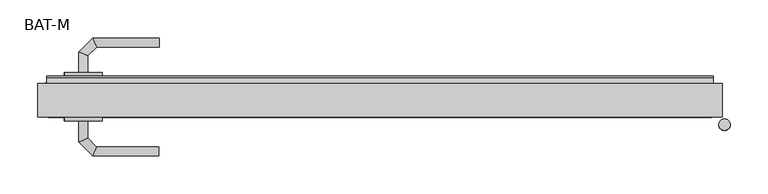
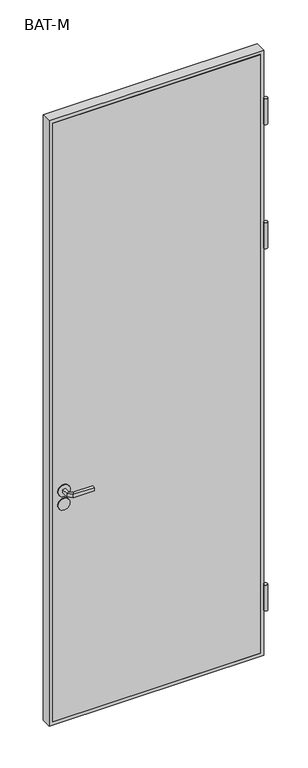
"""IFC4 building model written with IfcOpenShell, lengths in millimetres: proxy geometry, BAT-M : 94-GODVF54."""

from ifc_helpers import new_model, si_unit, point, frame, frame_2d, origin, place, context, project, spatial, polyline, circle_curve, ellipse_curve, trimmed, segment, composite_curve, outline, extrude, source, transform, mapped, element, save
from ifc_brep_helpers import plane_surface, cylinder_surface, advanced_brep


def bat_m_937d9498(model_context):
    return source(origin(), model_context, "Body", "SolidModel", [
        extrude(outline(composite_curve([segment(polyline([(1126.0, -831.5306002), (1126.0, -896.5306002), (916.0, -896.5306002), (916.0, -831.5306002)]), True, "CONTINUOUS"), segment(trimmed(circle_curve(frame_2d((956.0, -831.5306002)), 40.0), [point((916.0, -831.5306002))], [point((956.0, -791.5306002))], False, "CARTESIAN"), True, "CONTINUOUS"), segment(polyline([(956.0, -791.5306002), (1086.0, -791.5306002)]), True, "CONTINUOUS"), segment(trimmed(circle_curve(frame_2d((1086.0, -831.5306002)), 40.0), [point((1086.0, -791.5306002))], [point((1126.0, -831.5306002))], False, "CARTESIAN"), True, "CONTINUOUS")], self_intersect=False)), frame((0.0, 7.9132708, 0.0), z_axis=(0.0, 1.0, 0.0), x_axis=(0.0, 0.0, 1.0)), (0.0, 0.0, 1.0), 37.9267377),
        extrude(outline(composite_curve([segment(trimmed(circle_curve(frame_2d((1051.0, -846.7739009)), 25.0), [point((1051.0, -871.7739009))], [point((1051.0, -821.7739009))], False, "CARTESIAN"), True, "CONTINUOUS"), segment(trimmed(circle_curve(frame_2d((1051.0, -846.7739009)), 25.0), [point((1051.0, -821.7739009))], [point((1051.0, -871.7739009))], False, "CARTESIAN"), True, "CONTINUOUS")], self_intersect=False)), frame((0.0, 54.0, 0.0), z_axis=(0.0, 1.0, 0.0), x_axis=(0.0, 0.0, 1.0)), (0.0, 0.0, 1.0), 5.0),
        extrude(outline(composite_curve([segment(trimmed(circle_curve(frame_2d((991.25, -846.9257392)), 25.0), [point((991.25, -871.9257392))], [point((991.25, -821.9257392))], False, "CARTESIAN"), True, "CONTINUOUS"), segment(trimmed(circle_curve(frame_2d((991.25, -846.9257392)), 25.0), [point((991.25, -821.9257392))], [point((991.25, -871.9257392))], False, "CARTESIAN"), True, "CONTINUOUS")], self_intersect=False)), frame((0.0, 54.0, 0.0), z_axis=(0.0, 1.0, 0.0), x_axis=(0.0, 0.0, 1.0)), (0.0, 0.0, 1.0), 5.0),
        advanced_brep(
        [(-841.0, 59.0, 1044.0), (-841.0, 59.0, 1058.0), (-853.0, 59.0, 1058.0), (-853.0, 59.0, 1044.0), (-841.0, 81.4852045, 1044.0), (-841.0, 81.4852045, 1058.0), (-853.0, 86.4557673, 1058.0), (-853.0, 86.4557673, 1044.0), (-829.5147186, 92.9704859, 1044.0), (-829.5147186, 92.9704859, 1058.0), (-834.4852814, 104.9704859, 1058.0), (-834.4852814, 104.9704859, 1044.0), (-746.9542163, 92.9704859, 1044.0), (-746.9542163, 104.9704859, 1044.0), (-746.9542163, 104.9704859, 1058.0), (-746.9542163, 92.9704859, 1058.0)],
        [
            (0, 1),
            (1, 2, circle_curve(frame((-847.0, 59.0, 1037.9542278), z_axis=(0.0, -1.0, 0.0), x_axis=(-1.0, 0.0, 0.0)), 20.9244589)),
            (2, 3),
            (3, 0, circle_curve(frame((-847.0, 59.0, 1064.0457722), z_axis=(0.0, -1.0, 0.0), x_axis=(-1.0, 0.0, 0.0)), 20.9244589)),
            (0, 4),
            (4, 5),
            (5, 1),
            (5, 6, ellipse_curve(frame((-847.0, 83.9704859, 1037.9542278), z_axis=(-0.3826834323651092, -0.9238795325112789, 0.0), x_axis=(0.9238795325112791, -0.3826834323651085, 0.0)), 22.6484711, 20.9244589)),
            (6, 2),
            (6, 7),
            (7, 3),
            (7, 4, ellipse_curve(frame((-847.0, 83.9704859, 1064.0457722), z_axis=(-0.3826834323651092, -0.9238795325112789, 0.0), x_axis=(0.9238795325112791, -0.3826834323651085, 0.0)), 22.6484711, 20.9244589)),
            (4, 8),
            (8, 9),
            (9, 5),
            (9, 10, ellipse_curve(frame((-832.0, 98.9704859, 1037.9542278), z_axis=(-0.923879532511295, -0.38268343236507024, 0.0), x_axis=(0.3826834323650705, -0.9238795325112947, 0.0)), 22.6484711, 20.9244589)),
            (10, 6),
            (10, 11),
            (11, 7),
            (11, 8, ellipse_curve(frame((-832.0, 98.9704859, 1064.0457722), z_axis=(-0.923879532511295, -0.38268343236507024, 0.0), x_axis=(0.3826834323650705, -0.9238795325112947, 0.0)), 22.6484711, 20.9244589)),
            (12, 13, circle_curve(frame((-746.9542163, 98.9704859, 1064.0457722), z_axis=(1.0, 0.0, 0.0), x_axis=(0.0, 1.0, 0.0)), 20.9244589)),
            (13, 14),
            (14, 15, circle_curve(frame((-746.9542163, 98.9704859, 1037.9542278), z_axis=(1.0, 0.0, 0.0), x_axis=(0.0, 1.0, 0.0)), 20.9244589)),
            (15, 12),
            (8, 12),
            (15, 9),
            (14, 10),
            (13, 11),
        ],
        [
            plane_surface(frame((-856.2195445, 59.0, 1051.0), z_axis=(0.0, -1.0, 0.0), x_axis=(0.0, 0.0, 1.0))),
            plane_surface(frame((-841.0, 59.0, 1044.0), z_axis=(1.0, 0.0, 0.0), x_axis=(0.0, 1.0, 0.0))),
            cylinder_surface(frame((-847.0, 59.0, 1037.9542278), z_axis=(0.0, -1.0, 0.0), x_axis=(-1.0, 0.0, 0.0)), 20.9244589),
            plane_surface(frame((-853.0, 59.0, 1058.0), z_axis=(-1.0, 0.0, 0.0), x_axis=(0.0, 1.0, 0.0))),
            cylinder_surface(frame((-847.0, 59.0, 1064.0457722), z_axis=(0.0, -1.0, 0.0), x_axis=(-1.0, 0.0, 0.0)), 20.9244589),
            plane_surface(frame((-841.0, 81.4852045, 1044.0), z_axis=(0.7071067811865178, -0.7071067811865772, 0.0), x_axis=(0.7071067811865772, 0.7071067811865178, 0.0))),
            cylinder_surface(frame((-847.0, 83.9704859, 1037.9542278), z_axis=(-0.7071067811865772, -0.7071067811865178, 0.0), x_axis=(-0.7071067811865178, 0.7071067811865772, 0.0)), 20.9244589),
            plane_surface(frame((-853.0, 86.4557673, 1058.0), z_axis=(-0.7071067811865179, 0.7071067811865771, 0.0), x_axis=(0.7071067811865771, 0.7071067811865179, 0.0))),
            cylinder_surface(frame((-847.0, 83.9704859, 1064.0457722), z_axis=(-0.7071067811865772, -0.7071067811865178, 0.0), x_axis=(-0.7071067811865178, 0.7071067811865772, 0.0)), 20.9244589),
            plane_surface(frame((-746.9542163, 98.9704859, 1041.7804555), z_axis=(1.0, 0.0, 0.0), x_axis=(0.0, 1.0, 0.0))),
            plane_surface(frame((-829.5147186, 92.9704859, 1044.0), z_axis=(0.0, -1.0, 0.0), x_axis=(1.0, 0.0, 0.0))),
            cylinder_surface(frame((-832.0, 98.9704859, 1037.9542278), z_axis=(-1.0, 0.0, 0.0), x_axis=(0.0, 1.0, 0.0)), 20.9244589),
            plane_surface(frame((-834.4852814, 104.9704859, 1058.0), z_axis=(0.0, 1.0, 0.0), x_axis=(1.0, 0.0, 0.0))),
            cylinder_surface(frame((-832.0, 98.9704859, 1064.0457722), z_axis=(-1.0, 0.0, 0.0), x_axis=(0.0, 1.0, 0.0)), 20.9244589),
        ],
        [
            (0, [[1, 2, 3, 4]]),
            (1, [[-1, 5, 6, 7]]),
            (2, [[-2, -7, 8, 9]]),
            (3, [[-3, -9, 10, 11]]),
            (4, [[-4, -11, 12, -5]]),
            (5, [[-6, 13, 14, 15]]),
            (6, [[-8, -15, 16, 17]]),
            (7, [[-10, -17, 18, 19]]),
            (8, [[-12, -19, 20, -13]]),
            (9, [[21, 22, 23, 24]]),
            (10, [[-14, 25, -24, 26]]),
            (11, [[-16, -26, -23, 27]]),
            (12, [[-18, -27, -22, 28]]),
            (13, [[-20, -28, -21, -25]]),
        ],
    ),
        advanced_brep(
        [(-853.0, -5.0, 1058.0), (-841.0, -5.0, 1058.0), (-841.0, -5.0, 1044.0), (-853.0, -5.0, 1044.0), (-853.0, -32.6509507, 1058.0), (-841.0, -27.680388, 1058.0), (-841.0, -27.680388, 1044.0), (-853.0, -32.6509507, 1044.0), (-834.62279, -51.0281607, 1058.0), (-829.6522273, -39.0281607, 1058.0), (-829.6522273, -39.0281607, 1044.0), (-834.62279, -51.0281607, 1044.0), (-746.9813594, -51.0281607, 1058.0), (-746.9813594, -51.0281607, 1044.0), (-746.9813594, -39.0281607, 1044.0), (-746.9813594, -39.0281607, 1058.0)],
        [
            (0, 1, circle_curve(frame((-847.0, -5.0, 1037.9542278), z_axis=(0.0, 1.0, 0.0), x_axis=(1.0, 0.0, 0.0)), 20.9244589)),
            (1, 2),
            (2, 3, circle_curve(frame((-847.0, -5.0, 1064.0457722), z_axis=(0.0, 1.0, 0.0), x_axis=(1.0, 0.0, 0.0)), 20.9244589)),
            (3, 0),
            (0, 4),
            (4, 5, ellipse_curve(frame((-847.0, -30.1656693, 1037.9542278), z_axis=(-0.38268343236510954, 0.9238795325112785, 0.0), x_axis=(0.9238795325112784, 0.38268343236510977, 0.0)), 22.6484711, 20.9244589)),
            (5, 1),
            (5, 6),
            (6, 2),
            (6, 7, ellipse_curve(frame((-847.0, -30.1656693, 1064.0457722), z_axis=(-0.38268343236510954, 0.9238795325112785, 0.0), x_axis=(0.9238795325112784, 0.38268343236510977, 0.0)), 22.6484711, 20.9244589)),
            (7, 3),
            (7, 4),
            (4, 8),
            (8, 9, ellipse_curve(frame((-832.1375086, -45.0281607, 1037.9542278), z_axis=(-0.9238795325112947, 0.38268343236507, 0.0), x_axis=(0.38268343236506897, 0.9238795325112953, 0.0)), 22.6484711, 20.9244589)),
            (9, 5),
            (9, 10),
            (10, 6),
            (10, 11, ellipse_curve(frame((-832.1375086, -45.0281607, 1064.0457722), z_axis=(-0.9238795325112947, 0.38268343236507, 0.0), x_axis=(0.38268343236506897, 0.9238795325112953, 0.0)), 22.6484711, 20.9244589)),
            (11, 7),
            (11, 8),
            (12, 13),
            (13, 14, circle_curve(frame((-746.9813594, -45.0281607, 1064.0457722), z_axis=(1.0, 0.0, 0.0), x_axis=(0.0, 1.0, 0.0)), 20.9244589)),
            (14, 15),
            (15, 12, circle_curve(frame((-746.9813594, -45.0281607, 1037.9542278), z_axis=(1.0, 0.0, 0.0), x_axis=(0.0, 1.0, 0.0)), 20.9244589)),
            (8, 12),
            (15, 9),
            (14, 10),
            (13, 11),
        ],
        [
            plane_surface(frame((-856.2195445, -5.0, 1051.0), z_axis=(0.0, 1.0, 0.0), x_axis=(0.0, 0.0, -1.0))),
            cylinder_surface(frame((-847.0, -5.0, 1037.9542278), z_axis=(0.0, 1.0, 0.0), x_axis=(1.0, 0.0, 0.0)), 20.9244589),
            plane_surface(frame((-841.0, -5.0, 1058.0), z_axis=(1.0, 0.0, 0.0), x_axis=(0.0, -1.0, 0.0))),
            cylinder_surface(frame((-847.0, -5.0, 1064.0457722), z_axis=(0.0, 1.0, 0.0), x_axis=(1.0, 0.0, 0.0)), 20.9244589),
            plane_surface(frame((-853.0, -5.0, 1044.0), z_axis=(-1.0, 0.0, 0.0), x_axis=(0.0, -1.0, 0.0))),
            cylinder_surface(frame((-847.0, -30.1656693, 1037.9542278), z_axis=(-0.7071067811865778, 0.7071067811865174, 0.0), x_axis=(0.7071067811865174, 0.7071067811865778, 0.0)), 20.9244589),
            plane_surface(frame((-841.0, -27.680388, 1058.0), z_axis=(0.707106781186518, 0.7071067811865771, 0.0), x_axis=(0.7071067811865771, -0.707106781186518, 0.0))),
            cylinder_surface(frame((-847.0, -30.1656693, 1064.0457722), z_axis=(-0.7071067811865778, 0.7071067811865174, 0.0), x_axis=(0.7071067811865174, 0.7071067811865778, 0.0)), 20.9244589),
            plane_surface(frame((-853.0, -32.6509507, 1044.0), z_axis=(-0.7071067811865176, -0.7071067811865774, 0.0), x_axis=(0.7071067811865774, -0.7071067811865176, 0.0))),
            plane_surface(frame((-746.9813594, -45.0281607, 1041.7804555), z_axis=(1.0, 0.0, 0.0), x_axis=(0.0, 1.0, 0.0))),
            cylinder_surface(frame((-832.1375086, -45.0281607, 1037.9542278), z_axis=(-1.0, 0.0, 0.0), x_axis=(0.0, 1.0, 0.0)), 20.9244589),
            plane_surface(frame((-829.6522273, -39.0281607, 1058.0), z_axis=(0.0, 1.0, 0.0), x_axis=(1.0, 0.0, 0.0))),
            cylinder_surface(frame((-832.1375086, -45.0281607, 1064.0457722), z_axis=(-1.0, 0.0, 0.0), x_axis=(0.0, 1.0, 0.0)), 20.9244589),
            plane_surface(frame((-834.62279, -51.0281607, 1044.0), z_axis=(0.0, -1.0, 0.0), x_axis=(1.0, 0.0, 0.0))),
        ],
        [
            (0, [[1, 2, 3, 4]]),
            (1, [[-1, 5, 6, 7]]),
            (2, [[-2, -7, 8, 9]]),
            (3, [[-3, -9, 10, 11]]),
            (4, [[-4, -11, 12, -5]]),
            (5, [[-6, 13, 14, 15]]),
            (6, [[-8, -15, 16, 17]]),
            (7, [[-10, -17, 18, 19]]),
            (8, [[-12, -19, 20, -13]]),
            (9, [[21, 22, 23, 24]]),
            (10, [[-14, 25, -24, 26]]),
            (11, [[-16, -26, -23, 27]]),
            (12, [[-18, -27, -22, 28]]),
            (13, [[-20, -28, -21, -25]]),
        ],
    ),
        extrude(outline(composite_curve([segment(trimmed(circle_curve(frame_2d((1051.0, -846.7739009)), 25.0), [point((1051.0, -871.7739009))], [point((1051.0, -821.7739009))], False, "CARTESIAN"), True, "CONTINUOUS"), segment(trimmed(circle_curve(frame_2d((1051.0, -846.7739009)), 25.0), [point((1051.0, -821.7739009))], [point((1051.0, -871.7739009))], False, "CARTESIAN"), True, "CONTINUOUS")], self_intersect=False)), frame((0.0, -5.0, 0.0), z_axis=(0.0, 1.0, 0.0), x_axis=(0.0, 0.0, 1.0)), (0.0, 0.0, 1.0), 5.0),
        extrude(outline(composite_curve([segment(trimmed(circle_curve(frame_2d((991.0, -846.9257392)), 25.0), [point((991.0, -871.9257392))], [point((991.0, -821.9257392))], False, "CARTESIAN"), True, "CONTINUOUS"), segment(trimmed(circle_curve(frame_2d((991.0, -846.9257392)), 25.0), [point((991.0, -821.9257392))], [point((991.0, -871.9257392))], False, "CARTESIAN"), True, "CONTINUOUS")], self_intersect=False)), frame((0.0, -5.0, 0.0), z_axis=(0.0, 1.0, 0.0), x_axis=(0.0, 0.0, 1.0)), (0.0, 0.0, 1.0), 5.0),
        extrude(outline(polyline([(-18.0, 46.0), (-892.0, 46.0), (-892.0, 54.0), (-18.0, 54.0), (-18.0, 46.0)])), frame((0.0, 0.0, 34.0), z_axis=(0.0, 0.0, 1.0), x_axis=(1.0, 0.0, 0.0)), (0.0, 0.0, 1.0), 2669.0),
        extrude(outline(polyline([(-18.0, 0.0), (-892.0, 0.0), (-892.0, 6.0), (-18.0, 6.0), (-18.0, 0.0)])), frame((0.0, 0.0, 34.0), z_axis=(0.0, 0.0, 1.0), x_axis=(1.0, 0.0, 0.0)), (0.0, 0.0, 1.0), 2669.0),
        extrude(outline(polyline([(2703.0, -18.0), (2703.0, -892.0), (34.0, -892.0), (34.0, -18.0), (2703.0, -18.0)]), holes=[polyline([(2684.0, -873.0), (2684.0, -37.0), (53.0, -37.0), (53.0, -873.0), (2684.0, -873.0)])]), frame((0.0, 44.0, 0.0), z_axis=(0.0, 1.0, 0.0), x_axis=(0.0, 0.0, 1.0)), (0.0, 0.0, 1.0), 2.0),
        extrude(outline(polyline([(2703.0, -18.0), (2703.0, -892.0), (34.0, -892.0), (34.0, -18.0), (2703.0, -18.0)]), holes=[polyline([(2684.0, -873.0), (2684.0, -37.0), (53.0, -37.0), (53.0, -873.0), (2684.0, -873.0)])]), frame((0.0, 6.0, 0.0), z_axis=(0.0, 1.0, 0.0), x_axis=(0.0, 0.0, 1.0)), (0.0, 0.0, 1.0), 2.0),
        extrude(outline(polyline([(2704.0, -17.0), (2704.0, -893.0), (33.0, -893.0), (33.0, -17.0), (2704.0, -17.0)]), holes=[polyline([(2663.0, -852.0), (2663.0, -58.0), (74.0, -58.0), (74.0, -852.0), (2663.0, -852.0)])]), frame((0.0, 8.0, 0.0), z_axis=(0.0, 1.0, 0.0), x_axis=(0.0, 0.0, 1.0)), (0.0, 0.0, 1.0), 36.0),
        extrude(outline(polyline([(2706.0, -15.0), (2706.0, -895.0), (19.0, -895.0), (19.0, -15.0), (2706.0, -15.0)]), holes=[polyline([(2704.0, -893.0), (2704.0, -17.0), (33.0, -17.0), (33.0, -893.0), (2704.0, -893.0)])]), frame((0.0, 52.0, 0.0), z_axis=(0.0, 1.0, 0.0), x_axis=(0.0, 0.0, 1.0)), (0.0, 0.0, 1.0), 2.0),
        extrude(outline(polyline([(2706.0, -15.0), (2706.0, -895.0), (19.0, -895.0), (19.0, -15.0), (2706.0, -15.0)]), holes=[polyline([(2704.0, -893.0), (2704.0, -17.0), (33.0, -17.0), (33.0, -893.0), (2704.0, -893.0)])]), frame((0.0, 44.5, 0.0), z_axis=(0.0, 1.0, 0.0), x_axis=(0.0, 0.0, 1.0)), (0.0, 0.0, 1.0), 7.5),
        extrude(outline(polyline([(2718.0, -3.0), (2718.0, -907.0), (19.0, -907.0), (19.0, -3.0), (2718.0, -3.0)]), holes=[polyline([(2704.0, -893.0), (2704.0, -17.0), (33.0, -17.0), (33.0, -893.0), (2704.0, -893.0)])]), frame((0.0, 0.0, 0.0), z_axis=(0.0, 1.0, 0.0), x_axis=(0.0, 0.0, 1.0)), (0.0, 0.0, 1.0), 44.5),
        extrude(outline(composite_curve([segment(trimmed(circle_curve(frame_2d((0.0, -10.0)), 7.5), [point((7.5, -10.0))], [point((-7.5, -10.0))], False, "CARTESIAN"), True, "CONTINUOUS"), segment(trimmed(circle_curve(frame_2d((0.0, -10.0)), 7.5), [point((-7.5, -10.0))], [point((7.5, -10.0))], False, "CARTESIAN"), True, "CONTINUOUS")], self_intersect=False)), frame((0.0, 0.0, 2395.5), z_axis=(0.0, 0.0, 1.0), x_axis=(1.0, 0.0, 0.0)), (0.0, 0.0, 1.0), 115.0),
        extrude(outline(composite_curve([segment(trimmed(circle_curve(frame_2d((0.0, -10.0)), 7.5), [point((7.5, -10.0))], [point((-7.5, -10.0))], False, "CARTESIAN"), True, "CONTINUOUS"), segment(trimmed(circle_curve(frame_2d((0.0, -10.0)), 7.5), [point((-7.5, -10.0))], [point((7.5, -10.0))], False, "CARTESIAN"), True, "CONTINUOUS")], self_intersect=False)), frame((0.0, 0.0, 1842.5), z_axis=(0.0, 0.0, 1.0), x_axis=(1.0, 0.0, 0.0)), (0.0, 0.0, 1.0), 115.0),
        extrude(outline(composite_curve([segment(trimmed(circle_curve(frame_2d((0.0, -10.0)), 7.5), [point((7.5, -10.0))], [point((-7.5, -10.0))], False, "CARTESIAN"), True, "CONTINUOUS"), segment(trimmed(circle_curve(frame_2d((0.0, -10.0)), 7.5), [point((-7.5, -10.0))], [point((7.5, -10.0))], False, "CARTESIAN"), True, "CONTINUOUS")], self_intersect=False)), frame((0.0, 0.0, 226.5), z_axis=(0.0, 0.0, 1.0), x_axis=(1.0, 0.0, 0.0)), (0.0, 0.0, 1.0), 115.0),
    ])


if __name__ == "__main__":
    model = new_model("IFC4")
    model_context = context("Model", 3, world=origin())
    ifc_project = project(units=[si_unit("LENGTHUNIT", "METRE", prefix="MILLI")], contexts=[model_context])
    site = spatial("IfcSite", under=ifc_project)
    building = spatial("IfcBuilding", under=site)
    placement = place(None, origin())
    bat_m_shape = bat_m_937d9498(model_context)
    element("IfcBuildingElementProxy", 1, Name="BAT-M : 94-GODVF54", ObjectType="BAT-M : 94-GODVF54", at=placement, inside=building, context=model_context, shape_type="MappedRepresentation", body=[
        mapped(bat_m_shape, transform((0.0, 0.0, 0.0), x_axis=(1.0, 0.0, 0.0), y_axis=(0.0, 1.0, 0.0), z_axis=(0.0, 0.0, 1.0))),
    ])
    save(model, "model.ifc")
